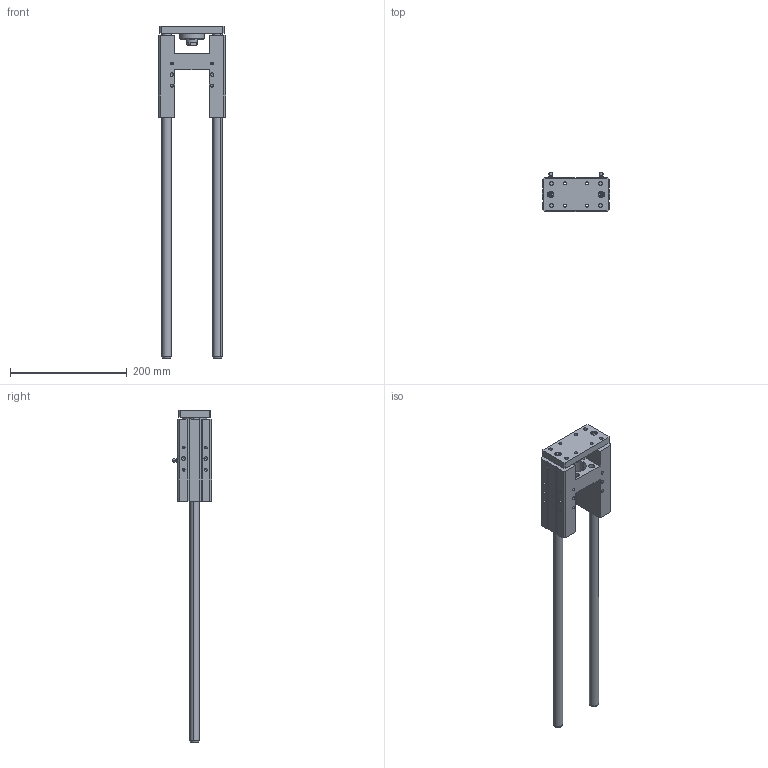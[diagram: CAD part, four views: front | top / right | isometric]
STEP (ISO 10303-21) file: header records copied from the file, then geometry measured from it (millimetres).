
FILE_DESCRIPTION (( 'STEP AP214' ), '1' );
FILE_NAME ('WHCB-040-0400 (3D).STEP', '2018-12-28T14:58:47', ( 'Hidtek' ), ( '' ), 'SwSTEP 2.0', 'SolidWorks 2016', '' );
FILE_SCHEMA (( 'AUTOMOTIVE_DESIGN' ));
Length unit declared in the file: millimetre
Products named in the file (4): Group3^WHCB-040-0400 (3D); Group1^WHCB-040-0400 (3D); WHCB-040-0400 (3D); Group2^WHCB-040-0400 (3D)
Assembly tree (3 placements, depth 2):
  WHCB-040-0400 (3D)
    Group1^WHCB-040-0400 (3D)
    Group2^WHCB-040-0400 (3D)
    Group3^WHCB-040-0400 (3D)
Bounding box: 115 x 67.05 x 569 mm (x, y, z)
Volume: 760002.5 mm3; surface area: 166764.2 mm2
Topology: 14 solids, 14 shells, 663 faces, 1650 edges, 1036 vertices
Faces by surface type: plane 363, cylinder 138, bspline 86, cone 76
Entity records: 25499 total; most frequent: CARTESIAN_POINT 8345, ORIENTED_EDGE 3180, DIRECTION 2962, EDGE_CURVE 1590, LINE 1048, VECTOR 1048, VERTEX_POINT 1036, AXIS2_PLACEMENT_3D 957
